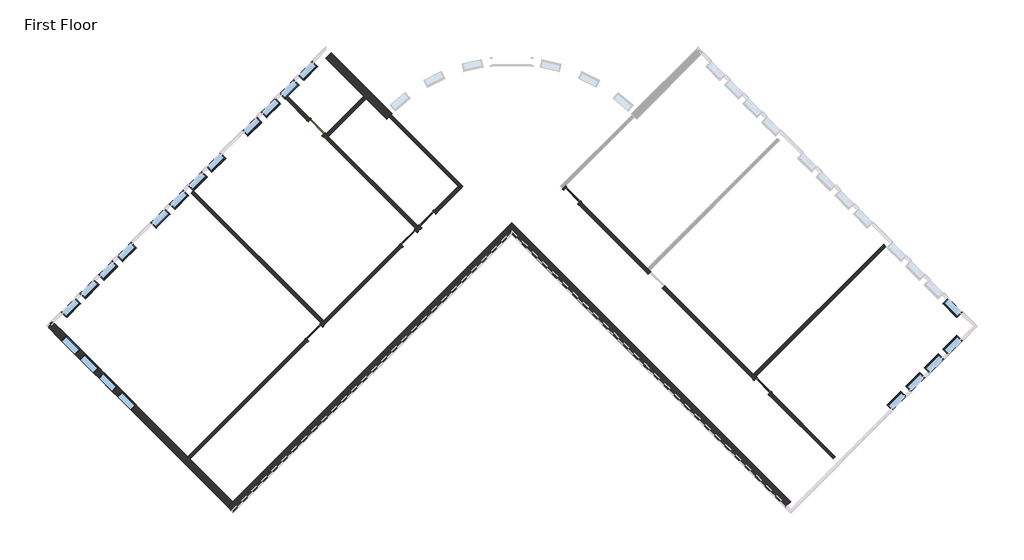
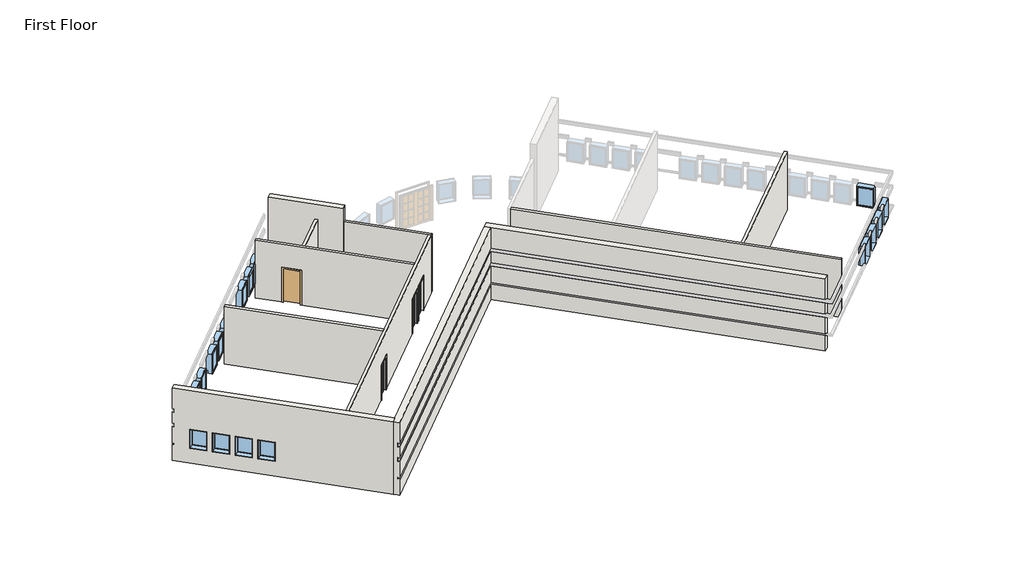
# One storey, part 1 of 3: 21 windows, 11 walls, 6 doors.
"""IFC4 building model written with IfcOpenShell, lengths in millimetres."""

from ifc_helpers import new_model, si_unit, frame, origin, origin_with_axes, place, context, project, spatial, polyline, circle_curve, outline, extrude, faceted_brep, transform, mapped, element, save
from ifc_brep_helpers import plane_surface, cylinder_surface, revolved_surface, advanced_brep
from components import door_f9494b7c, door_b81abb0e, door_5f5b55da, window_15c49d37, window_0e2fc6ce

model = new_model("IFC4")

# Units and contexts
model_context = context("Model", 3, world=origin())
ifc_project = project(units=[si_unit("LENGTHUNIT", "METRE", prefix="MILLI")], contexts=[model_context])

# Site, building, storey
site = spatial("IfcSite", under=ifc_project)
building = spatial("IfcBuilding", under=site)
storey = spatial("IfcBuildingStorey", under=building, Name="First Floor", Elevation=0.0)

# Doors
placement = place(None, origin())
door_shape = door_f9494b7c(model_context)
element("IfcDoor", 1, ObjectType="Single-Flush : 36\" x 84\"", at=placement, inside=storey, context=model_context, shape_type="MappedRepresentation", body=[
    mapped(door_shape, transform((-11920.1265343, 7875.9588464, 0.0), x_axis=(0.7071067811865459, -0.7071067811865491, 0.0), y_axis=(0.7071067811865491, 0.7071067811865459, 0.0), z_axis=(0.0, 0.0, 1.0))),
])
door_2_shape = door_b81abb0e(model_context)
element("IfcDoor", 2, ObjectType="Single-Glass 1 : 36\" x 84\"", at=placement, inside=storey, context=model_context, shape_type="MappedRepresentation", body=[
    mapped(door_2_shape, transform((-12027.7718255, -1647.4849877, 0.0), x_axis=(0.7071067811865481, 0.7071067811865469, 0.0), y_axis=(-0.7071067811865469, 0.7071067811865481, 0.0), z_axis=(0.0, 0.0, 1.0))),
])
element("IfcDoor", 3, ObjectType="Single-Glass 1 : 36\" x 84\"", at=placement, inside=storey, context=model_context, shape_type="MappedRepresentation", body=[
    mapped(door_2_shape, transform((-7643.2795567, 2737.0072811, 0.0), x_axis=(0.7071067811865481, 0.7071067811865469, 0.0), y_axis=(-0.7071067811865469, 0.7071067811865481, 0.0), z_axis=(0.0, 0.0, 1.0))),
])
door_3_shape = door_5f5b55da(model_context)
element("IfcDoor", 4, ObjectType="Single-Glass 1 : 36\" x 84\"", at=placement, inside=storey, context=model_context, shape_type="MappedRepresentation", body=[
    mapped(door_3_shape, transform((-6781.1749691, 3599.1118687, 0.0), x_axis=(-0.7071067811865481, -0.7071067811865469, 0.0), y_axis=(0.7071067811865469, -0.7071067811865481, 0.0), z_axis=(0.0, 0.0, 1.0))),
])
element("IfcDoor", 5, ObjectType="Single-Glass 1 : 36\" x 84\"", at=placement, inside=storey, context=model_context, shape_type="MappedRepresentation", body=[
    mapped(door_3_shape, transform((-66.4240191, 4710.6541283, 0.0), x_axis=(-0.7071067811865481, 0.7071067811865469, 0.0), y_axis=(-0.7071067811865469, -0.7071067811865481, 0.0), z_axis=(0.0, 0.0, 1.0))),
])
element("IfcDoor", 6, ObjectType="Single-Glass 1 : 36\" x 84\"", at=placement, inside=storey, context=model_context, shape_type="MappedRepresentation", body=[
    mapped(door_3_shape, transform((8770.3835686, -4126.1534594, 0.0), x_axis=(-0.7071067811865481, 0.7071067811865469, 0.0), y_axis=(-0.7071067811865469, -0.7071067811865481, 0.0), z_axis=(0.0, 0.0, 1.0))),
])

# Walls
element("IfcWall", 7, ObjectType="Exterior - Brick on Mtl. Stud", at=placement, inside=storey, context=model_context, shape_type="Brep", body=[
    faceted_brep([(-24171.4409475, -1108.7874027, 0.0), (-23922.2388402, -1357.9895101, 0.0), (-17885.2616628, -7394.9666875, 0.0), (-17775.2535253, -7504.974825, 0.0), (-15799.5971786, -9480.6311716, 0.0), (-16048.799286, -9729.833279, 0.0), (-24420.6430549, -1357.9895101, 0.0), (-15799.5971786, -9480.6311716, 4572.0), (-23922.2388402, -1357.9895101, 4572.0), (-24171.4409475, -1108.7874027, 4572.0), (-24420.6430549, -1357.9895101, 4572.0), (-16048.799286, -9729.833279, 4572.0), (-24171.4409475, -1108.7874027, 1016.0), (-24106.3340906, -1173.8942596, 1016.0), (-24106.3340906, -1173.8942596, 1085.85), (-24171.4409475, -1108.7874027, 1085.85), (-24171.4409475, -1108.7874027, 2133.6), (-24106.3340906, -1173.8942596, 2133.6), (-24106.3340906, -1173.8942596, 2336.8), (-24171.4409475, -1108.7874027, 2336.8), (-24171.4409475, -1108.7874027, 3048.0), (-24106.3340906, -1173.8942596, 3048.0), (-24106.3340906, -1173.8942596, 3251.2), (-24171.4409475, -1108.7874027, 3251.2), (-20921.7107637, -4358.5175865, 2133.6), (-20921.7107637, -4358.5175865, 914.4), (-20275.132323, -5005.0960273, 914.4), (-20275.132323, -5005.0960273, 2133.6), (-21783.8153513, -3496.4129989, 2133.6), (-21783.8153513, -3496.4129989, 914.4), (-21137.2369106, -4142.9914396, 914.4), (-21137.2369106, -4142.9914396, 2133.6), (-22645.9199389, -2634.3084113, 2133.6), (-22645.9199389, -2634.3084113, 914.4), (-21999.3414982, -3280.886852, 914.4), (-21999.3414982, -3280.886852, 2133.6), (-23508.0245266, -1772.2038237, 2133.6), (-23508.0245266, -1772.2038237, 914.4), (-22861.4460859, -2418.7822644, 914.4), (-22861.4460859, -2418.7822644, 2133.6), (-24420.6430549, -1357.9895101, 3251.2), (-24355.536198, -1423.096367, 3251.2), (-24355.536198, -1423.096367, 3048.0), (-24420.6430549, -1357.9895101, 3048.0), (-24420.6430549, -1357.9895101, 2336.8), (-24355.536198, -1423.096367, 2336.8), (-24355.536198, -1423.096367, 2133.6), (-24420.6430549, -1357.9895101, 2133.6), (-24420.6430549, -1357.9895101, 1085.85), (-24355.536198, -1423.096367, 1085.85), (-24355.536198, -1423.096367, 1016.0), (-24420.6430549, -1357.9895101, 1016.0), (-21170.9128711, -4607.7196939, 914.4), (-21170.9128711, -4607.7196939, 2133.6), (-20524.3344303, -5254.2981346, 2133.6), (-20524.3344303, -5254.2981346, 914.4), (-22033.0174587, -3745.6151063, 914.4), (-22033.0174587, -3745.6151063, 2133.6), (-21386.439018, -4392.193547, 2133.6), (-21386.439018, -4392.193547, 914.4), (-22895.1220463, -2883.5105187, 914.4), (-22895.1220463, -2883.5105187, 2133.6), (-22248.5436056, -3530.0889594, 2133.6), (-22248.5436056, -3530.0889594, 914.4), (-23757.2266339, -2021.405931, 914.4), (-23757.2266339, -2021.405931, 2133.6), (-23110.6481932, -2667.9843718, 2133.6), (-23110.6481932, -2667.9843718, 914.4)], [[[0, 1, 2, 3, 4, 5, 6]], [[7, 8, 9, 10, 11]], [[4, 3, 2, 1, 0, 12, 13, 14, 15, 16, 17, 18, 19, 20, 21, 22, 23, 9, 8, 7], [24, 25, 26, 27], [28, 29, 30, 31], [32, 33, 34, 35], [36, 37, 38, 39]], [[6, 5, 11, 10, 40, 41, 42, 43, 44, 45, 46, 47, 48, 49, 50, 51], [52, 53, 54, 55], [56, 57, 58, 59], [60, 61, 62, 63], [64, 65, 66, 67]], [[4, 7, 11, 5]], [[0, 6, 51, 12]], [[10, 9, 23, 40]], [[15, 48, 47, 16]], [[19, 44, 43, 20]], [[25, 24, 53, 52]], [[26, 25, 52, 55]], [[27, 26, 55, 54]], [[24, 27, 54, 53]], [[29, 28, 57, 56]], [[30, 29, 56, 59]], [[31, 30, 59, 58]], [[28, 31, 58, 57]], [[33, 32, 61, 60]], [[34, 33, 60, 63]], [[35, 34, 63, 62]], [[32, 35, 62, 61]], [[37, 36, 65, 64]], [[38, 37, 64, 67]], [[39, 38, 67, 66]], [[36, 39, 66, 65]], [[14, 49, 48, 15]], [[50, 13, 12, 51]], [[49, 14, 13, 50]], [[46, 17, 16, 47]], [[17, 46, 45, 18]], [[18, 45, 44, 19]], [[42, 21, 20, 43]], [[21, 42, 41, 22]], [[22, 41, 40, 23]]]),
])
element("IfcWall", 8, ObjectType="Exterior - Split Face and CMU on Mtl. Stud", at=placement, inside=storey, context=model_context, shape_type="Brep", body=[
    faceted_brep([(10063.54045, -9480.6311716, 0.0), (-2868.0283643, 3450.9376427, 0.0), (-2868.0283643, 3450.9376427, 4572.0), (10063.54045, -9480.6311716, 4572.0), (9814.3383427, -9729.833279, 4572.0), (-2868.0283643, 2952.533428, 4572.0), (-3117.2304717, 3201.7355354, 4572.0), (-3117.2304717, 3201.7355354, 0.0), (-2868.0283643, 2952.533428, 0.0), (9814.3383427, -9729.833279, 0.0), (9814.3383427, -9729.833279, 1016.0), (-2868.0283643, 2952.533428, 1016.0), (-2933.1352212, 3017.6402849, 1016.0), (-2933.1352212, 3017.6402849, 1085.85), (-2868.0283643, 2952.533428, 1085.85), (9814.3383427, -9729.833279, 1085.85), (9814.3383427, -9729.833279, 2133.6), (-2868.0283643, 2952.533428, 2133.6), (-2933.1352212, 3017.6402849, 2133.6), (-2933.1352212, 3017.6402849, 2336.8), (-2868.0283643, 2952.533428, 2336.8), (9814.3383427, -9729.833279, 2336.8), (9814.3383427, -9729.833279, 3048.0), (-2868.0283643, 2952.533428, 3048.0), (-2933.1352212, 3017.6402849, 3048.0), (-2933.1352212, 3017.6402849, 3251.2), (-2868.0283643, 2952.533428, 3251.2), (9814.3383427, -9729.833279, 3251.2), (-3052.1236148, 3266.8423923, 0.0), (9879.4451996, -9664.7264221, 3251.2), (9879.4451996, -9664.7264221, 3048.0), (9879.4451996, -9664.7264221, 2336.8), (9879.4451996, -9664.7264221, 2133.6), (9879.4451996, -9664.7264221, 1085.85), (9879.4451996, -9664.7264221, 1016.0), (9879.4451996, -9664.7264221, 0.0), (-2868.0283643, 3082.7471418, 1085.85), (-2868.0283643, 3082.7471418, 1016.0), (-2868.0283643, 3082.7471418, 2133.6), (-2868.0283643, 3082.7471418, 2336.8), (-2868.0283643, 3082.7471418, 3048.0), (-2868.0283643, 3082.7471418, 3251.2)], [[[0, 1, 2, 3]], [[4, 5, 6, 7, 8, 9, 10, 11, 12, 13, 14, 15, 16, 17, 18, 19, 20, 21, 22, 23, 24, 25, 26, 27]], [[3, 2, 6, 5, 4]], [[2, 1, 28, 7, 6]], [[0, 3, 4, 27, 29, 30, 22, 21, 31, 32, 16, 15, 33, 34, 10, 9, 35]], [[1, 0, 35, 28]], [[35, 9, 8, 7, 28]], [[13, 36, 33, 15, 14]], [[34, 37, 12, 11, 10]], [[36, 37, 34, 33]], [[37, 36, 13, 12]], [[32, 38, 18, 17, 16]], [[19, 39, 31, 21, 20]], [[39, 38, 32, 31]], [[38, 39, 19, 18]], [[30, 40, 24, 23, 22]], [[25, 41, 29, 27, 26]], [[41, 40, 30, 29]], [[40, 41, 25, 24]]]),
])
element("IfcWall", 9, ObjectType="Exterior - Split Face and CMU on Mtl. Stud", at=placement, inside=storey, context=model_context, shape_type="Brep", body=[
    faceted_brep([(-3117.2304717, 3201.7355354, 0.0), (-15799.5971786, -9480.6311716, 0.0), (-16048.799286, -9729.833279, 0.0), (-16048.799286, -9729.833279, 4572.0), (-15799.5971786, -9480.6311716, 4572.0), (-3117.2304717, 3201.7355354, 4572.0), (-2868.0283643, 2952.533428, 4572.0), (-15799.5971786, -9979.0353863, 4572.0), (-15799.5971786, -9979.0353863, 3251.2), (-2868.0283643, 2952.533428, 3251.2), (-15799.5971786, -9979.0353863, 0.0), (-2868.0283643, 2952.533428, 0.0), (-2868.0283643, 2952.533428, 1016.0), (-15799.5971786, -9979.0353863, 1016.0), (-15799.5971786, -9979.0353863, 1085.85), (-2868.0283643, 2952.533428, 1085.85), (-2868.0283643, 2952.533428, 2133.6), (-15799.5971786, -9979.0353863, 2133.6), (-15799.5971786, -9979.0353863, 2336.8), (-2868.0283643, 2952.533428, 2336.8), (-2868.0283643, 2952.533428, 3048.0), (-15799.5971786, -9979.0353863, 3048.0), (-15864.7040355, -9913.9285294, 0.0), (-15864.7040355, -9913.9285294, 1016.0), (-15864.7040355, -9913.9285294, 1085.85), (-15864.7040355, -9913.9285294, 2133.6), (-15864.7040355, -9913.9285294, 2336.8), (-15864.7040355, -9913.9285294, 3048.0), (-15864.7040355, -9913.9285294, 3251.2), (-2933.1352212, 3017.6402849, 3251.2), (-2933.1352212, 3017.6402849, 3048.0), (-2933.1352212, 3017.6402849, 2336.8), (-2933.1352212, 3017.6402849, 2133.6), (-2933.1352212, 3017.6402849, 1085.85), (-2933.1352212, 3017.6402849, 1016.0), (-2933.1352212, 3017.6402849, 0.0)], [[[0, 1, 2, 3, 4, 5]], [[6, 7, 8, 9]], [[10, 11, 12, 13]], [[14, 15, 16, 17]], [[18, 19, 20, 21]], [[5, 4, 3, 7, 6]], [[3, 2, 22, 10, 13, 23, 24, 14, 17, 25, 26, 18, 21, 27, 28, 8, 7]], [[0, 5, 6, 9, 29, 30, 20, 19, 31, 32, 16, 15, 33, 34, 12, 11, 35]], [[2, 1, 0, 35, 22]], [[35, 11, 10, 22]], [[24, 33, 15, 14]], [[34, 23, 13, 12]], [[23, 34, 33, 24]], [[32, 25, 17, 16]], [[26, 31, 19, 18]], [[25, 32, 31, 26]], [[30, 27, 21, 20]], [[28, 29, 9, 8]], [[27, 30, 29, 28]]]),
])
element("IfcWall", 10, ObjectType="Exterior - Split Face and CMU on Mtl. Stud", at=placement, inside=storey, context=model_context, shape_type="AdvancedBrep", body=[
    advanced_brep(
    [(-11489.0742405, 11075.1750895, 0.0), (-9728.9440408, 9315.0448898, 0.0), (-9618.9359033, 9205.0367523, 0.0), (-8658.0122729, 8244.1131219, 0.0), (-8658.0122729, 8244.1131219, 4572.0), (-11489.0742405, 11075.1750895, 4572.0), (-11239.8721332, 11324.3771969, 4572.0), (-8662.486224, 8746.9912878, 4572.0), (-8413.2817722, 8497.7868359, 4572.0), (-8413.2817722, 8497.7868359, 0.0), (-8662.486224, 8746.9912878, 0.0), (-11239.8721332, 11324.3771969, 0.0), (-11239.8721332, 11324.3771969, 1016.0), (-8662.486224, 8746.9912878, 1016.0), (-8597.3787742, 8681.8838379, 1016.0), (-8597.3787742, 8681.8838379, 1085.85), (-8662.486224, 8746.9912878, 1085.85), (-11239.8721332, 11324.3771969, 1085.85), (-11239.8721332, 11324.3771969, 2133.6), (-8662.486224, 8746.9912878, 2133.6), (-8597.3787742, 8681.8838379, 2133.6), (-8597.3787742, 8681.8838379, 2336.8), (-8662.486224, 8746.9912878, 2336.8), (-11239.8721332, 11324.3771969, 2336.8), (-11239.8721332, 11324.3771969, 3048.0), (-8662.486224, 8746.9912878, 3048.0), (-8597.3787742, 8681.8838379, 3048.0), (-8597.3787742, 8681.8838379, 3251.2), (-8662.486224, 8746.9912878, 3251.2), (-11239.8721332, 11324.3771969, 3251.2), (-8557.713594, 8350.8358404, 0.0), (-8478.2967797, 8432.5881297, 0.0), (-8449.0111375, 8462.1452813, 0.0), (-11304.9789901, 11259.27034, 3251.2), (-11304.9789901, 11259.27034, 3048.0), (-11304.9789901, 11259.27034, 2336.8), (-11304.9789901, 11259.27034, 2133.6), (-11304.9789901, 11259.27034, 1085.85), (-11304.9789901, 11259.27034, 1016.0), (-11304.9789901, 11259.27034, 0.0), (-8662.3967205, 8616.6880705, 1085.85), (-8662.3967205, 8616.6880705, 1016.0), (-8662.3967205, 8616.6880705, 2336.8), (-8662.3967205, 8616.6880705, 2133.6), (-8662.3967205, 8616.6880705, 3251.2), (-8662.3967205, 8616.6880705, 3048.0)],
    [
        (0, 1),
        (1, 2),
        (2, 3),
        (3, 4),
        (4, 5),
        (5, 0),
        (6, 7),
        (7, 8),
        (8, 9),
        (9, 10),
        (10, 11),
        (11, 12),
        (12, 13),
        (13, 14),
        (14, 15),
        (15, 16),
        (16, 17),
        (17, 18),
        (18, 19),
        (19, 20),
        (20, 21),
        (21, 22),
        (22, 23),
        (23, 24),
        (24, 25),
        (25, 26),
        (26, 27),
        (27, 28),
        (28, 29),
        (29, 6),
        (4, 8, circle_curve(frame((-2868.0283643, 2903.1420194, 4572.0), z_axis=(0.0, 0.0, -1.0), x_axis=(1.0, 0.0, 0.0)), 7877.175)),
        (6, 5),
        (3, 30, circle_curve(frame((-2868.0283643, 2903.1420194, 0.0), z_axis=(0.0, 0.0, -1.0), x_axis=(1.0, 0.0, 0.0)), 7877.175)),
        (30, 31, circle_curve(frame((-2868.0283643, 2903.1420194, 0.0), z_axis=(0.0, 0.0, -1.0), x_axis=(1.0, 0.0, 0.0)), 7877.175)),
        (31, 32, circle_curve(frame((-2868.0283643, 2903.1420194, 0.0), z_axis=(0.0, 0.0, -1.0), x_axis=(1.0, 0.0, 0.0)), 7877.175)),
        (32, 9, circle_curve(frame((-2868.0283643, 2903.1420194, 0.0), z_axis=(0.0, 0.0, -1.0), x_axis=(1.0, 0.0, 0.0)), 7877.175)),
        (29, 33),
        (33, 34),
        (34, 24),
        (23, 35),
        (35, 36),
        (36, 18),
        (17, 37),
        (37, 38),
        (38, 12),
        (11, 39),
        (39, 0),
        (39, 31),
        (40, 41),
        (41, 38),
        (37, 40),
        (15, 40, circle_curve(frame((-2868.0283643, 2903.1420194, 1085.85), z_axis=(0.0, 0.0, 1.0), x_axis=(-0.7040995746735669, 0.7101012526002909, 0.0)), 8137.525)),
        (41, 14, circle_curve(frame((-2868.0283643, 2903.1420194, 1016.0), z_axis=(0.0, 0.0, -1.0), x_axis=(-0.7040995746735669, 0.7101012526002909, 0.0)), 8137.525)),
        (42, 43),
        (43, 36),
        (35, 42),
        (43, 20, circle_curve(frame((-2868.0283643, 2903.1420194, 2133.6), z_axis=(0.0, 0.0, -1.0), x_axis=(-0.7120553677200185, 0.70212331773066, 0.0)), 8137.525)),
        (42, 21, circle_curve(frame((-2868.0283643, 2903.1420194, 2336.8), z_axis=(0.0, 0.0, -1.0), x_axis=(-0.7120553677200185, 0.70212331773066, 0.0)), 8137.525)),
        (44, 45),
        (45, 34),
        (33, 44),
        (45, 26, circle_curve(frame((-2868.0283643, 2903.1420194, 3048.0), z_axis=(0.0, 0.0, -1.0), x_axis=(-0.7120553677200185, 0.70212331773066, 0.0)), 8137.525)),
        (44, 27, circle_curve(frame((-2868.0283643, 2903.1420194, 3251.2), z_axis=(0.0, 0.0, -1.0), x_axis=(-0.7120553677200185, 0.70212331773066, 0.0)), 8137.525)),
    ],
    [
        plane_surface(frame((-11738.2763479, 11324.3771969, 0.0), z_axis=(-0.7071067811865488, -0.7071067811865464, 0.0), x_axis=(0.7071067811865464, -0.7071067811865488, 0.0))),
        plane_surface(frame((-11489.0742405, 11573.5793042, 0.0), z_axis=(0.7071067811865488, 0.7071067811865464, 0.0), x_axis=(-0.7071067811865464, 0.7071067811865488, 0.0))),
        plane_surface(frame((-8786.2632499, 8372.3640989, 4572.0), z_axis=(0.0, 0.0, 1.0), x_axis=(0.7071067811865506, 0.7071067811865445, 0.0))),
        revolved_surface(polyline([(5009.146635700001, 2903.1420194, 0.0), (5009.146635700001, 2903.1420194, 4572.0)]), (-2868.0283643, 2903.1420194, 0.0), (0.0, 0.0, -1.0)),
        plane_surface(frame((-24171.4409475, -1607.1916175, 0.0), z_axis=(-0.7071067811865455, 0.7071067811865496, 0.0), x_axis=(0.7071067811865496, 0.7071067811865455, 0.0))),
        plane_surface(frame((-11613.6752942, 11199.7761432, 0.0), z_axis=(0.0, 0.0, -1.0000000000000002), x_axis=(0.7071067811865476, 0.7071067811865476, 0.0))),
        plane_surface(frame((0.0, 0.0, 0.0), z_axis=(0.0, 0.0, -1.0), x_axis=(1.0, 0.0, 0.0))),
        plane_surface(frame((-11489.0742405, 11443.3655905, 1016.0), z_axis=(0.7071067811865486, 0.7071067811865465, 0.0), x_axis=(0.7071067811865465, -0.7071067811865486, 0.0))),
        plane_surface(frame((-2868.0283643, 2903.1420194, 1085.85), z_axis=(0.0, 0.0, -1.0), x_axis=(-0.7040995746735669, 0.7101012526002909, 0.0))),
        plane_surface(frame((-2868.0283643, 2903.1420194, 1016.0), z_axis=(0.0, 0.0, 1.0), x_axis=(-0.7040995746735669, 0.7101012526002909, 0.0))),
        cylinder_surface(frame((-2868.0283643, 2903.1420194, 1016.0), z_axis=(0.0, 0.0, -1.0), x_axis=(-0.7040995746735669, 0.7101012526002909, 0.0)), 8137.525),
        plane_surface(frame((-11489.0742405, 11443.3655905, 2133.6), z_axis=(0.7071067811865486, 0.7071067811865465, 0.0), x_axis=(0.7071067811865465, -0.7071067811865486, 0.0))),
        plane_surface(frame((-2868.0283643, 2903.1420194, 2133.6), z_axis=(0.0, 0.0, 1.0), x_axis=(-0.7120553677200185, 0.70212331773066, 0.0))),
        cylinder_surface(frame((-2868.0283643, 2903.1420194, 2133.6), z_axis=(0.0, 0.0, -1.0), x_axis=(-0.7120553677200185, 0.70212331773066, 0.0)), 8137.525),
        plane_surface(frame((-2868.0283643, 2903.1420194, 2336.8), z_axis=(0.0, 0.0, -1.0), x_axis=(-0.7120553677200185, 0.70212331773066, 0.0))),
        plane_surface(frame((-11489.0742405, 11443.3655905, 3048.0), z_axis=(0.7071067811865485, 0.7071067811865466, 0.0), x_axis=(0.7071067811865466, -0.7071067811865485, 0.0))),
        plane_surface(frame((-2868.0283643, 2903.1420194, 3048.0), z_axis=(0.0, 0.0, 1.0), x_axis=(-0.7120553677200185, 0.70212331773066, 0.0))),
        cylinder_surface(frame((-2868.0283643, 2903.1420194, 3048.0), z_axis=(0.0, 0.0, -1.0), x_axis=(-0.7120553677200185, 0.70212331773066, 0.0)), 8137.525),
        plane_surface(frame((-2868.0283643, 2903.1420194, 3251.2), z_axis=(0.0, 0.0, -1.0), x_axis=(-0.7120553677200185, 0.70212331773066, 0.0))),
    ],
    [
        (0, [[1, 2, 3, 4, 5, 6]]),
        (1, [[7, 8, 9, 10, 11, 12, 13, 14, 15, 16, 17, 18, 19, 20, 21, 22, 23, 24, 25, 26, 27, 28, 29, 30]]),
        (2, [[-5, 31, -8, -7, 32]]),
        (3, [[-31, -4, 33, 34, 35, 36, -9]]),
        (4, [[-6, -32, -30, 37, 38, 39, -24, 40, 41, 42, -18, 43, 44, 45, -12, 46, 47]]),
        (5, [[-3, -2, -1, -47, 48, -34, -33]]),
        (6, [[-46, -11, -10, -36, -35, -48]]),
        (7, [[49, 50, -44, 51]]),
        (8, [[52, -51, -43, -17, -16]]),
        (9, [[-50, 53, -14, -13, -45]]),
        (10, [[-49, -52, -15, -53]]),
        (11, [[54, 55, -41, 56]]),
        (12, [[-55, 57, -20, -19, -42]]),
        (13, [[-54, 58, -21, -57]]),
        (14, [[-58, -56, -40, -23, -22]]),
        (15, [[59, 60, -38, 61]]),
        (16, [[-60, 62, -26, -25, -39]]),
        (17, [[-59, 63, -27, -62]]),
        (18, [[-63, -61, -37, -29, -28]]),
    ],
),
])
element("IfcWall", 11, ObjectType="Interior - 6 1/8\" Partition (2-hr)", at=placement, inside=storey, context=model_context, shape_type="Brep", body=[
    faceted_brep([(-7049.4601207, 3220.8185796, 0.0), (-7264.9862676, 3005.2924327, 0.0), (-7374.9944051, 3115.3005702, 0.0), (-7322.2354004, 3168.0595749, 0.0), (-7212.2272629, 3278.0677124, 0.0), (-7159.4682582, 3330.8267171, 0.0), (-6512.8898174, 3977.4051578, 0.0), (-5348.5885532, 5141.7064221, 0.0), (-5238.5804157, 5031.6982846, 0.0), (-6402.88168, 3867.3970204, 0.0), (-7911.5647083, 2358.713992, 0.0), (-11649.4785364, -1379.1998361, 0.0), (-11759.4866739, -1269.1916986, 0.0), (-11706.7276692, -1216.4326939, 0.0), (-11596.7195317, -1106.4245564, 0.0), (-8021.5728458, 2468.7221295, 0.0), (-12296.0569771, -2025.7782768, 0.0), (-17775.2535253, -7504.974825, 0.0), (-17885.2616628, -7394.9666875, 0.0), (-12406.0651146, -1915.7701393, 0.0), (-17775.2535253, -7504.974825, 3657.6), (-5238.5804157, 5031.6982846, 3657.6), (-5348.5885532, 5141.7064221, 3657.6), (-7212.2272629, 3278.0677124, 3657.6), (-7322.2354004, 3168.0595749, 3657.6), (-11596.7195317, -1106.4245564, 3657.6), (-11706.7276692, -1216.4326939, 3657.6), (-17885.2616628, -7394.9666875, 3657.6), (-11649.4785364, -1379.1998361, 2133.6), (-7911.5647083, 2358.713992, 2133.6), (-7264.9862676, 3005.2924327, 2133.6), (-7049.4601207, 3220.8185796, 2133.6), (-6402.88168, 3867.3970204, 2133.6), (-12296.0569771, -2025.7782768, 2133.6), (-11759.4866739, -1269.1916986, 2133.6), (-12406.0651146, -1915.7701393, 2133.6), (-6512.8898174, 3977.4051578, 2133.6), (-7159.4682582, 3330.8267171, 2133.6), (-7374.9944051, 3115.3005702, 2133.6), (-8021.5728458, 2468.7221295, 2133.6)], [[[0, 1, 2, 3, 4, 5]], [[6, 7, 8, 9]], [[10, 11, 12, 13, 14, 15]], [[16, 17, 18, 19]], [[20, 21, 22, 23, 24, 25, 26, 27]], [[28, 11, 10, 29, 30, 1, 0, 31, 32, 9, 8, 21, 20, 17, 16, 33]], [[15, 14, 13, 12, 34, 35, 19, 18, 27, 26, 25, 24, 23, 22, 7, 6, 36, 37, 5, 4, 3, 2, 38, 39]], [[17, 20, 27, 18]], [[21, 8, 7, 22]], [[31, 0, 5, 37]], [[32, 31, 37, 36]], [[9, 32, 36, 6]], [[38, 2, 1, 30]], [[39, 38, 30, 29]], [[15, 39, 29, 10]], [[34, 12, 11, 28]], [[35, 34, 28, 33]], [[19, 35, 33, 16]]]),
])
element("IfcWall", 12, ObjectType="Interior - 6 1/8\" Partition (2-hr)", at=placement, inside=storey, context=model_context, shape_type="Brep", body=[
    faceted_brep([(-7322.2354004, 3168.0595749, 0.0), (-11651.8413827, 7497.6655573, 0.0), (-11541.8332452, 7607.6736948, 0.0), (-11489.0742405, 7554.9146901, 0.0), (-11379.066103, 7444.9065526, 0.0), (-7212.2272629, 3278.0677124, 0.0), (-12298.4198234, 8144.243998, 0.0), (-13359.2125777, 9205.0367523, 0.0), (-13249.2044403, 9315.0448898, 0.0), (-12188.411686, 8254.2521355, 0.0), (-7212.2272629, 3278.0677124, 3657.6), (-11379.066103, 7444.9065526, 3657.6), (-11489.0742405, 7554.9146901, 3657.6), (-13249.2044403, 9315.0448898, 3657.6), (-13359.2125777, 9205.0367523, 3657.6), (-7322.2354004, 3168.0595749, 3657.6), (-11541.8332452, 7607.6736948, 2133.6), (-12188.411686, 8254.2521355, 2133.6), (-11651.8413827, 7497.6655573, 2133.6), (-12298.4198234, 8144.243998, 2133.6)], [[[0, 1, 2, 3, 4, 5]], [[6, 7, 8, 9]], [[10, 11, 12, 13, 14, 15]], [[5, 4, 3, 2, 16, 17, 9, 8, 13, 12, 11, 10]], [[18, 1, 0, 15, 14, 7, 6, 19]], [[13, 8, 7, 14]], [[5, 10, 15, 0]], [[16, 2, 1, 18]], [[17, 16, 18, 19]], [[9, 17, 19, 6]]]),
])
element("IfcWall", 13, ObjectType="Interior - 6 1/8\" Partition (2-hr)", at=placement, inside=storey, context=model_context, shape_type="AdvancedBrep", body=[
    advanced_brep(
    [(-5128.5722782, 5141.7064221, 0.0), (-8449.0111375, 8462.1452813, 0.0), (-8449.0111375, 8462.1452813, 3657.6), (-5128.5722782, 5141.7064221, 3657.6), (-5238.5804157, 5031.6982846, 0.0), (-5238.5804157, 5031.6982846, 3657.6), (-5348.5885532, 5141.7064221, 3657.6), (-8557.7157352, 8350.8336041, 3657.6), (-8557.7157352, 8350.8336041, 0.0), (-5348.5885532, 5141.7064221, 0.0)],
    [
        (0, 1),
        (1, 2),
        (2, 3),
        (3, 0),
        (4, 5),
        (5, 6),
        (6, 7),
        (7, 8),
        (8, 9),
        (9, 4),
        (0, 4),
        (8, 1, circle_curve(frame((-2868.0283643, 2903.1420194, 0.0), z_axis=(0.0, 0.0, -1.0), x_axis=(1.0, 0.0, 0.0)), 7877.175)),
        (2, 7, circle_curve(frame((-2868.0283643, 2903.1420194, 3657.6), z_axis=(0.0, 0.0, 1.0), x_axis=(1.0, 0.0, 0.0)), 7877.175)),
        (5, 3),
    ],
    [
        plane_surface(frame((-5183.576347, 5196.7104908, 0.0), z_axis=(0.7071067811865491, 0.7071067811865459, 0.0), x_axis=(-0.7071067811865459, 0.7071067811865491, 0.0))),
        plane_surface(frame((-5293.5844845, 5086.7023533, 0.0), z_axis=(-0.7071067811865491, -0.7071067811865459, 0.0), x_axis=(0.7071067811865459, -0.7071067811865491, 0.0))),
        plane_surface(frame((-5183.576347, 5196.7104908, 0.0), z_axis=(0.0, 0.0, -1.0), x_axis=(-0.707106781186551, -0.7071067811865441, 0.0))),
        plane_surface(frame((-8573.2406241, 8586.374768, 3657.6), z_axis=(0.0, 0.0, 1.0), x_axis=(-0.707106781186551, -0.7071067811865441, 0.0))),
        plane_surface(frame((-17899.854579, -7629.5758786, 0.0), z_axis=(0.7071067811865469, -0.7071067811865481, 0.0), x_axis=(0.7071067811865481, 0.7071067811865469, 0.0))),
        cylinder_surface(frame((-2868.0283643, 2903.1420194, 0.0), z_axis=(0.0, 0.0, -1.0), x_axis=(1.0, 0.0, 0.0)), 7877.175),
    ],
    [
        (0, [[1, 2, 3, 4]]),
        (1, [[5, 6, 7, 8, 9, 10]]),
        (2, [[-1, 11, -10, -9, 12]]),
        (3, [[-3, 13, -7, -6, 14]]),
        (4, [[-4, -14, -5, -11]]),
        (5, [[-2, -12, -8, -13]]),
    ],
),
])
element("IfcWall", 14, ObjectType="Interior - 6 1/8\" Partition (2-hr)", at=placement, inside=storey, context=model_context, shape_type="SweptSolid", body=[
    extrude(outline(polyline([(-11489.0742405, 7554.9146901), (-9728.9440408, 9315.0448898), (-9618.9359033, 9205.0367523), (-11379.066103, 7444.9065526), (-11489.0742405, 7554.9146901)])), origin_with_axes(), (0.0, 0.0, 1.0), 3657.6),
])
element("IfcWall", 15, ObjectType="Interior - 6 1/8\" Partition (2-hr)", at=placement, inside=storey, context=model_context, shape_type="SweptSolid", body=[
    extrude(outline(polyline([(-17633.6967091, 4930.552621), (-11596.7195317, -1106.4245564), (-11706.7276692, -1216.4326939), (-17743.7048466, 4820.5444835), (-17633.6967091, 4930.552621)])), origin_with_axes(), (0.0, 0.0, 1.0), 3657.6),
])
element("IfcWall", 16, ObjectType="Interior - 6 1/8\" Partition (2-hr)", at=placement, inside=storey, context=model_context, shape_type="Brep", body=[
    faceted_brep([(-387.4681754, 5141.7064221, 0.0), (-334.7091707, 5088.9474174, 0.0), (-444.7173082, 4978.9392799, 0.0), (-497.4763129, 5031.6982846, 0.0), (311.86927, 4442.3689766, 0.0), (3415.9058564, 1338.3323903, 0.0), (3525.9139939, 1228.3242528, 0.0), (3578.6729986, 1175.5652481, 0.0), (3468.6648611, 1065.5571106, 0.0), (201.8611325, 4332.3608392, 0.0), (4225.2514393, 528.9868073, 0.0), (8339.3312748, -3585.0930281, 0.0), (8449.3394123, -3695.1011656, 0.0), (8502.098417, -3747.8601703, 0.0), (8392.0902795, -3857.8683078, 0.0), (4115.2433018, 418.9786699, 0.0), (9148.6768577, -4394.438611, 0.0), (12149.2049342, -7394.9666875, 0.0), (12039.1967967, -7504.974825, 0.0), (9038.6687202, -4504.4467485, 0.0), (12149.2049342, -7394.9666875, 3657.6), (8449.3394123, -3695.1011656, 3657.6), (8339.3312748, -3585.0930281, 3657.6), (3525.9139939, 1228.3242528, 3657.6), (3415.9058564, 1338.3323903, 3657.6), (-387.4681754, 5141.7064221, 3657.6), (-497.4763129, 5031.6982846, 3657.6), (12039.1967967, -7504.974825, 3657.6), (8502.098417, -3747.8601703, 2133.6), (4225.2514393, 528.9868073, 2133.6), (3578.6729986, 1175.5652481, 2133.6), (311.86927, 4442.3689766, 2133.6), (-334.7091707, 5088.9474174, 2133.6), (9148.6768577, -4394.438611, 2133.6), (8392.0902795, -3857.8683078, 2133.6), (9038.6687202, -4504.4467485, 2133.6), (-444.7173082, 4978.9392799, 2133.6), (201.8611325, 4332.3608392, 2133.6), (3468.6648611, 1065.5571106, 2133.6), (4115.2433018, 418.9786699, 2133.6)], [[[0, 1, 2, 3]], [[4, 5, 6, 7, 8, 9]], [[10, 11, 12, 13, 14, 15]], [[16, 17, 18, 19]], [[20, 21, 22, 23, 24, 25, 26, 27]], [[28, 13, 12, 11, 10, 29, 30, 7, 6, 5, 4, 31, 32, 1, 0, 25, 24, 23, 22, 21, 20, 17, 16, 33]], [[15, 14, 34, 35, 19, 18, 27, 26, 3, 2, 36, 37, 9, 8, 38, 39]], [[25, 0, 3, 26]], [[17, 20, 27, 18]], [[36, 2, 1, 32]], [[37, 36, 32, 31]], [[9, 37, 31, 4]], [[38, 8, 7, 30]], [[39, 38, 30, 29]], [[15, 39, 29, 10]], [[34, 14, 13, 28]], [[35, 34, 28, 33]], [[19, 35, 33, 16]]]),
])
element("IfcWall", 17, ObjectType="Interior - 6 1/8\" Partition (2-hr)", at=placement, inside=storey, context=model_context, shape_type="SweptSolid", body=[
    extrude(outline(polyline([(8339.3312748, -3585.0930281), (14376.3084522, 2451.8841493), (14486.3165897, 2341.8760118), (8449.3394123, -3695.1011656), (8339.3312748, -3585.0930281)])), origin_with_axes(), (0.0, 0.0, 1.0), 3657.6),
])

# Windows
window_shape = window_15c49d37(model_context)
element("IfcWindow", 18, ObjectType="Fixed : 36\" x 48\"", at=placement, inside=storey, context=model_context, shape_type="MappedRepresentation", body=[
    mapped(window_shape, transform((-23336.2771283, -522.8256908, 0.0), x_axis=(-0.7071067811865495, -0.7071067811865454, 0.0), y_axis=(0.7071067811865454, -0.7071067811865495, 0.0), z_axis=(0.0, 0.0, 1.0))),
])
element("IfcWindow", 19, ObjectType="Fixed : 36\" x 48\"", at=placement, inside=storey, context=model_context, shape_type="MappedRepresentation", body=[
    mapped(window_shape, transform((-22474.1725406, 339.2788968, 0.0), x_axis=(-0.7071067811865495, -0.7071067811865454, 0.0), y_axis=(0.7071067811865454, -0.7071067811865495, 0.0), z_axis=(0.0, 0.0, 1.0))),
])
element("IfcWindow", 20, ObjectType="Fixed : 36\" x 48\"", at=placement, inside=storey, context=model_context, shape_type="MappedRepresentation", body=[
    mapped(window_shape, transform((-21612.067953, 1201.3834844, 0.0), x_axis=(-0.7071067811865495, -0.7071067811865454, 0.0), y_axis=(0.7071067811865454, -0.7071067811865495, 0.0), z_axis=(0.0, 0.0, 1.0))),
])
element("IfcWindow", 21, ObjectType="Fixed : 36\" x 48\"", at=placement, inside=storey, context=model_context, shape_type="MappedRepresentation", body=[
    mapped(window_shape, transform((-20749.9633654, 2063.488072, 0.0), x_axis=(-0.7071067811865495, -0.7071067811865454, 0.0), y_axis=(0.7071067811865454, -0.7071067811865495, 0.0), z_axis=(0.0, 0.0, 1.0))),
])
element("IfcWindow", 22, ObjectType="Fixed : 36\" x 48\"", at=placement, inside=storey, context=model_context, shape_type="MappedRepresentation", body=[
    mapped(window_shape, transform((-19187.8702245, 3625.5812129, 0.0), x_axis=(-0.7071067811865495, -0.7071067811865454, 0.0), y_axis=(0.7071067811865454, -0.7071067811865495, 0.0), z_axis=(0.0, 0.0, 1.0))),
])
element("IfcWindow", 23, ObjectType="Fixed : 36\" x 48\"", at=placement, inside=storey, context=model_context, shape_type="MappedRepresentation", body=[
    mapped(window_shape, transform((-18325.7656368, 4487.6858006, 0.0), x_axis=(-0.7071067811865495, -0.7071067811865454, 0.0), y_axis=(0.7071067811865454, -0.7071067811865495, 0.0), z_axis=(0.0, 0.0, 1.0))),
])
element("IfcWindow", 24, ObjectType="Fixed : 36\" x 48\"", at=placement, inside=storey, context=model_context, shape_type="MappedRepresentation", body=[
    mapped(window_shape, transform((-17463.6610492, 5349.7903882, 0.0), x_axis=(-0.7071067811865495, -0.7071067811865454, 0.0), y_axis=(0.7071067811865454, -0.7071067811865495, 0.0), z_axis=(0.0, 0.0, 1.0))),
])
element("IfcWindow", 25, ObjectType="Fixed : 36\" x 48\"", at=placement, inside=storey, context=model_context, shape_type="MappedRepresentation", body=[
    mapped(window_shape, transform((-16601.5564616, 6211.8949758, 0.0), x_axis=(-0.7071067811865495, -0.7071067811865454, 0.0), y_axis=(0.7071067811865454, -0.7071067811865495, 0.0), z_axis=(0.0, 0.0, 1.0))),
])
element("IfcWindow", 26, ObjectType="Fixed : 36\" x 48\"", at=placement, inside=storey, context=model_context, shape_type="MappedRepresentation", body=[
    mapped(window_shape, transform((17600.2203996, -2193.1533294, 0.0), x_axis=(0.7071067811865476, 0.7071067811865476, 0.0), y_axis=(-0.7071067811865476, 0.7071067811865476, 0.0), z_axis=(0.0, 0.0, 1.0))),
])
element("IfcWindow", 27, ObjectType="Fixed : 36\" x 48\"", at=placement, inside=storey, context=model_context, shape_type="MappedRepresentation", body=[
    mapped(window_shape, transform((16738.115812, -3055.257917, 0.0), x_axis=(0.7071067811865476, 0.7071067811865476, 0.0), y_axis=(-0.7071067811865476, 0.7071067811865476, 0.0), z_axis=(0.0, 0.0, 1.0))),
])
element("IfcWindow", 28, ObjectType="Fixed : 36\" x 48\"", at=placement, inside=storey, context=model_context, shape_type="MappedRepresentation", body=[
    mapped(window_shape, transform((15876.0112244, -3917.3625046, 0.0), x_axis=(0.7071067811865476, 0.7071067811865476, 0.0), y_axis=(-0.7071067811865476, 0.7071067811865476, 0.0), z_axis=(0.0, 0.0, 1.0))),
])
element("IfcWindow", 29, ObjectType="Fixed : 36\" x 48\"", at=placement, inside=storey, context=model_context, shape_type="MappedRepresentation", body=[
    mapped(window_shape, transform((15013.9066368, -4779.4670922, 0.0), x_axis=(0.7071067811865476, 0.7071067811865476, 0.0), y_axis=(-0.7071067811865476, 0.7071067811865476, 0.0), z_axis=(0.0, 0.0, 1.0))),
])
window_2_shape = window_0e2fc6ce(model_context)
element("IfcWindow", 30, ObjectType="Fixed : 36\" x 48\"", at=placement, inside=storey, context=model_context, shape_type="MappedRepresentation", body=[
    mapped(window_2_shape, transform((-12290.3265348, 10523.1249026, 0.0), x_axis=(0.7071067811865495, 0.7071067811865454, 0.0), y_axis=(-0.7071067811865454, 0.7071067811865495, 0.0), z_axis=(0.0, 0.0, 1.0))),
])
element("IfcWindow", 31, ObjectType="Fixed : 36\" x 48\"", at=placement, inside=storey, context=model_context, shape_type="MappedRepresentation", body=[
    mapped(window_2_shape, transform((-13152.4311224, 9661.020315, 0.0), x_axis=(0.7071067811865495, 0.7071067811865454, 0.0), y_axis=(-0.7071067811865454, 0.7071067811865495, 0.0), z_axis=(0.0, 0.0, 1.0))),
])
element("IfcWindow", 32, ObjectType="Fixed : 36\" x 48\"", at=placement, inside=storey, context=model_context, shape_type="MappedRepresentation", body=[
    mapped(window_2_shape, transform((-14014.53571, 8798.9157274, 0.0), x_axis=(0.7071067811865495, 0.7071067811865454, 0.0), y_axis=(-0.7071067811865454, 0.7071067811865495, 0.0), z_axis=(0.0, 0.0, 1.0))),
])
element("IfcWindow", 33, ObjectType="Fixed : 36\" x 48\"", at=placement, inside=storey, context=model_context, shape_type="MappedRepresentation", body=[
    mapped(window_2_shape, transform((-14876.6402977, 7936.8111398, 0.0), x_axis=(0.7071067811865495, 0.7071067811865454, 0.0), y_axis=(-0.7071067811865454, 0.7071067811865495, 0.0), z_axis=(0.0, 0.0, 1.0))),
])
element("IfcWindow", 34, ObjectType="Fixed : 36\" x 48\"", at=placement, inside=storey, context=model_context, shape_type="MappedRepresentation", body=[
    mapped(window_2_shape, transform((17600.2203996, -522.8256908, 0.0), x_axis=(0.7071067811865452, -0.7071067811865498, 0.0), y_axis=(0.7071067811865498, 0.7071067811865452, 0.0), z_axis=(0.0, 0.0, 1.0))),
])
element("IfcWindow", 35, ObjectType="Fixed : 36\" x 48\"", at=placement, inside=storey, context=model_context, shape_type="MappedRepresentation", body=[
    mapped(window_2_shape, transform((-23336.2771283, -2193.1533294, 0.0), x_axis=(-0.7071067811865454, 0.7071067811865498, 0.0), y_axis=(-0.7071067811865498, -0.7071067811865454, 0.0), z_axis=(0.0, 0.0, 1.0))),
])
element("IfcWindow", 36, ObjectType="Fixed : 36\" x 48\"", at=placement, inside=storey, context=model_context, shape_type="MappedRepresentation", body=[
    mapped(window_2_shape, transform((-22474.1725406, -3055.257917, 0.0), x_axis=(-0.7071067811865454, 0.7071067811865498, 0.0), y_axis=(-0.7071067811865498, -0.7071067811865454, 0.0), z_axis=(0.0, 0.0, 1.0))),
])
element("IfcWindow", 37, ObjectType="Fixed : 36\" x 48\"", at=placement, inside=storey, context=model_context, shape_type="MappedRepresentation", body=[
    mapped(window_2_shape, transform((-21612.067953, -3917.3625046, 0.0), x_axis=(-0.7071067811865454, 0.7071067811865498, 0.0), y_axis=(-0.7071067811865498, -0.7071067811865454, 0.0), z_axis=(0.0, 0.0, 1.0))),
])
element("IfcWindow", 38, ObjectType="Fixed : 36\" x 48\"", at=placement, inside=storey, context=model_context, shape_type="MappedRepresentation", body=[
    mapped(window_2_shape, transform((-20749.9633654, -4779.4670922, 0.0), x_axis=(-0.7071067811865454, 0.7071067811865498, 0.0), y_axis=(-0.7071067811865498, -0.7071067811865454, 0.0), z_axis=(0.0, 0.0, 1.0))),
])

save(model, "model.ifc")
